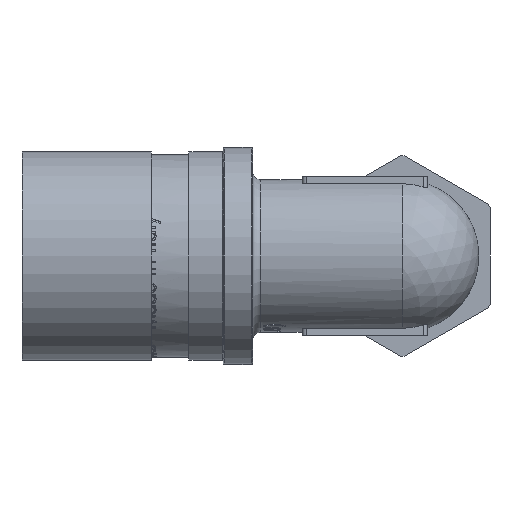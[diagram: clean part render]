
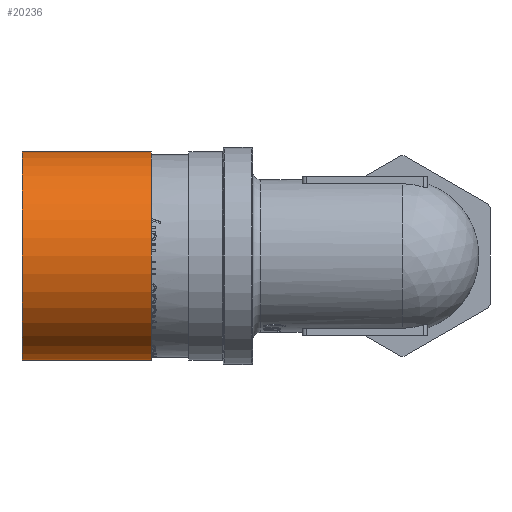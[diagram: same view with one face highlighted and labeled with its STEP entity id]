
A CAD part, front view. The second image highlights one B-rep face of the part: STEP entity #20236.
In plain terms, the highlighted cylindrical face has radius 12.5 mm (diameter 25 mm), a full revolution.
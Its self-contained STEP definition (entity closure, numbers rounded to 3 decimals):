
#1855=FACE_OUTER_BOUND('',#3025,.T.);
#3025=EDGE_LOOP('',(#17315,#17316,#17317,#17318,#17319,#17320));
#3673=CIRCLE('',#21416,12.5);
#3674=CIRCLE('',#21417,12.5);
#3675=CIRCLE('',#21419,12.5);
#3676=CIRCLE('',#21420,12.5);
#6147=LINE('',#40736,#7622);
#7622=VECTOR('',#24672,12.5);
#9392=VERTEX_POINT('',#40727);
#9393=VERTEX_POINT('',#40728);
#9394=VERTEX_POINT('',#40732);
#9395=VERTEX_POINT('',#40733);
#12193=EDGE_CURVE('',#9392,#9393,#3673,.T.);
#12194=EDGE_CURVE('',#9393,#9392,#3674,.T.);
#12195=EDGE_CURVE('',#9394,#9395,#3675,.T.);
#12196=EDGE_CURVE('',#9395,#9394,#3676,.T.);
#12197=EDGE_CURVE('',#9395,#9393,#6147,.T.);
#17315=ORIENTED_EDGE('',*,*,#12195,.F.);
#17316=ORIENTED_EDGE('',*,*,#12196,.F.);
#17317=ORIENTED_EDGE('',*,*,#12197,.T.);
#17318=ORIENTED_EDGE('',*,*,#12194,.T.);
#17319=ORIENTED_EDGE('',*,*,#12193,.T.);
#17320=ORIENTED_EDGE('',*,*,#12197,.F.);
#19385=CYLINDRICAL_SURFACE('',#21418,12.5);
#20236=ADVANCED_FACE('',(#1855),#19385,.T.);
#21416=AXIS2_PLACEMENT_3D('',#40729,#24662,#24663);
#21417=AXIS2_PLACEMENT_3D('',#40730,#24664,#24665);
#21418=AXIS2_PLACEMENT_3D('',#40731,#24666,#24667);
#21419=AXIS2_PLACEMENT_3D('',#40734,#24668,#24669);
#21420=AXIS2_PLACEMENT_3D('',#40735,#24670,#24671);
#24662=DIRECTION('center_axis',(1.,0.,0.));
#24663=DIRECTION('ref_axis',(0.,0.,-1.));
#24664=DIRECTION('center_axis',(1.,0.,0.));
#24665=DIRECTION('ref_axis',(0.,0.,-1.));
#24666=DIRECTION('center_axis',(1.,0.,0.));
#24667=DIRECTION('ref_axis',(0.,1.,0.));
#24668=DIRECTION('center_axis',(1.,0.,0.));
#24669=DIRECTION('ref_axis',(0.,0.,-1.));
#24670=DIRECTION('center_axis',(1.,0.,0.));
#24671=DIRECTION('ref_axis',(0.,0.,-1.));
#24672=DIRECTION('',(-1.,0.,0.));
#40727=CARTESIAN_POINT('',(-45.561,12.5,0.));
#40728=CARTESIAN_POINT('',(-45.561,-12.5,0.));
#40729=CARTESIAN_POINT('Origin',(-45.561,0.,0.));
#40730=CARTESIAN_POINT('Origin',(-45.561,0.,0.));
#40731=CARTESIAN_POINT('Origin',(-37.811,0.,0.));
#40732=CARTESIAN_POINT('',(-30.061,12.5,0.));
#40733=CARTESIAN_POINT('',(-30.061,-12.5,0.));
#40734=CARTESIAN_POINT('Origin',(-30.061,0.,0.));
#40735=CARTESIAN_POINT('Origin',(-30.061,0.,0.));
#40736=CARTESIAN_POINT('',(-37.811,-12.5,0.));
